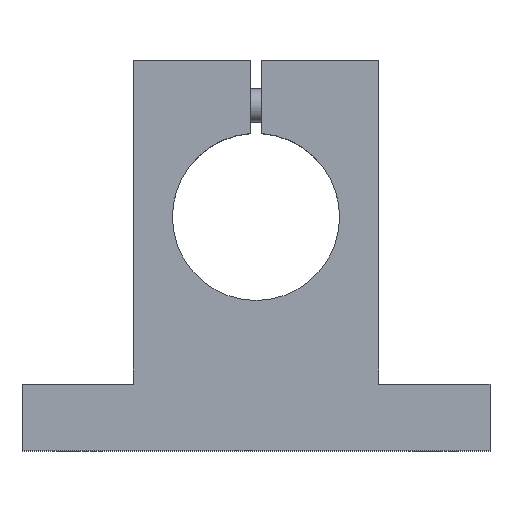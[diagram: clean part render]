
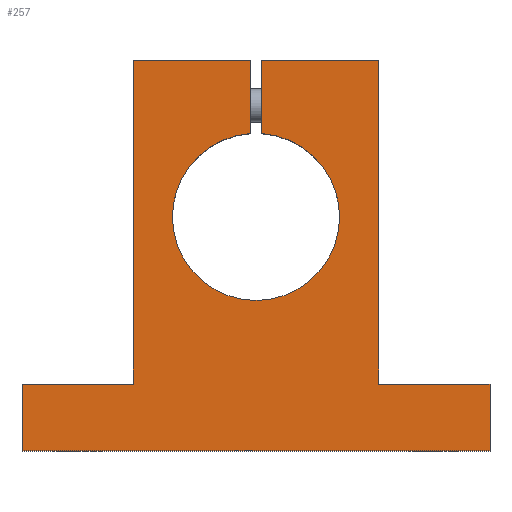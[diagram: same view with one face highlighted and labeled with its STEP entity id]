
A CAD part, top view. The second image highlights one B-rep face of the part: STEP entity #257.
In plain terms, the highlighted planar face has unit normal (0, 0, 1).
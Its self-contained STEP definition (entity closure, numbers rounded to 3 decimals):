
#16 = DIRECTION ( 'NONE',  ( 0., -1., 0. ) ) ;
#31 = LINE ( 'NONE', #623, #1117 ) ;
#41 = CARTESIAN_POINT ( 'NONE',  ( 42., -42., 0. ) ) ;
#50 = DIRECTION ( 'NONE',  ( 0., 1., 0. ) ) ;
#51 = VERTEX_POINT ( 'NONE', #202 ) ;
#73 = VECTOR ( 'NONE', #1114, 1000. ) ;
#83 = EDGE_CURVE ( 'NONE', #950, #186, #989, .T. ) ;
#92 = EDGE_CURVE ( 'NONE', #530, #1096, #31, .T. ) ;
#112 = ORIENTED_EDGE ( 'NONE', *, *, #695, .T. ) ;
#147 = CARTESIAN_POINT ( 'NONE',  ( -22., 28., 0. ) ) ;
#148 = LINE ( 'NONE', #1020, #1093 ) ;
#151 = CARTESIAN_POINT ( 'NONE',  ( 22., -30., 0. ) ) ;
#154 = ORIENTED_EDGE ( 'NONE', *, *, #783, .T. ) ;
#159 = DIRECTION ( 'NONE',  ( 0., 0., -1. ) ) ;
#162 = CARTESIAN_POINT ( 'NONE',  ( -42., -30., 0. ) ) ;
#173 = VERTEX_POINT ( 'NONE', #292 ) ;
#181 = DIRECTION ( 'NONE',  ( 0., 1., 0. ) ) ;
#183 = EDGE_CURVE ( 'NONE', #507, #918, #835, .T. ) ;
#184 = DIRECTION ( 'NONE',  ( 0., 1., 0. ) ) ;
#186 = VERTEX_POINT ( 'NONE', #911 ) ;
#202 = CARTESIAN_POINT ( 'NONE',  ( 1., 28., 0. ) ) ;
#207 = EDGE_CURVE ( 'NONE', #918, #530, #473, .T. ) ;
#231 = CARTESIAN_POINT ( 'NONE',  ( 0., 0., 0. ) ) ;
#242 = CARTESIAN_POINT ( 'NONE',  ( 22., 28., 0. ) ) ;
#247 = DIRECTION ( 'NONE',  ( 1., 0., 0. ) ) ;
#257 = ADVANCED_FACE ( 'NONE', ( #510 ), #499, .T. ) ;
#263 = VECTOR ( 'NONE', #1033, 1000. ) ;
#281 = ORIENTED_EDGE ( 'NONE', *, *, #690, .T. ) ;
#292 = CARTESIAN_POINT ( 'NONE',  ( 1., 14.967, 0. ) ) ;
#328 = VERTEX_POINT ( 'NONE', #1107 ) ;
#338 = VERTEX_POINT ( 'NONE', #162 ) ;
#377 = EDGE_CURVE ( 'NONE', #338, #507, #148, .T. ) ;
#379 = EDGE_LOOP ( 'NONE', ( #669, #723, #553, #1005, #776, #281, #569, #457, #808, #836, #501, #154, #112 ) ) ;
#405 = CARTESIAN_POINT ( 'NONE',  ( 22., 28., 0. ) ) ;
#432 = LINE ( 'NONE', #627, #722 ) ;
#457 = ORIENTED_EDGE ( 'NONE', *, *, #377, .T. ) ;
#473 = LINE ( 'NONE', #41, #941 ) ;
#494 = VERTEX_POINT ( 'NONE', #968 ) ;
#499 = PLANE ( 'NONE',  #772 ) ;
#501 = ORIENTED_EDGE ( 'NONE', *, *, #92, .T. ) ;
#507 = VERTEX_POINT ( 'NONE', #817 ) ;
#510 = FACE_OUTER_BOUND ( 'NONE', #379, .T. ) ;
#513 = CIRCLE ( 'NONE', #797, 15. ) ;
#530 = VERTEX_POINT ( 'NONE', #994 ) ;
#546 = VERTEX_POINT ( 'NONE', #921 ) ;
#553 = ORIENTED_EDGE ( 'NONE', *, *, #686, .T. ) ;
#554 = VECTOR ( 'NONE', #184, 1000. ) ;
#569 = ORIENTED_EDGE ( 'NONE', *, *, #891, .T. ) ;
#572 = AXIS2_PLACEMENT_3D ( 'NONE', #231, #159, #1024 ) ;
#579 = CARTESIAN_POINT ( 'NONE',  ( -42., -42., 0. ) ) ;
#584 = DIRECTION ( 'NONE',  ( -1., 0., 0. ) ) ;
#594 = CARTESIAN_POINT ( 'NONE',  ( 0., 0., 0. ) ) ;
#596 = CARTESIAN_POINT ( 'NONE',  ( 1., 0., 0. ) ) ;
#618 = CARTESIAN_POINT ( 'NONE',  ( -1., 14., 0. ) ) ;
#623 = CARTESIAN_POINT ( 'NONE',  ( 42., -30., 0. ) ) ;
#627 = CARTESIAN_POINT ( 'NONE',  ( -22., -30., 0. ) ) ;
#630 = DIRECTION ( 'NONE',  ( -1., 0., 0. ) ) ;
#639 = CARTESIAN_POINT ( 'NONE',  ( -1., 14.967, 0. ) ) ;
#660 = EDGE_CURVE ( 'NONE', #51, #173, #1013, .T. ) ;
#669 = ORIENTED_EDGE ( 'NONE', *, *, #660, .T. ) ;
#672 = LINE ( 'NONE', #242, #712 ) ;
#682 = CARTESIAN_POINT ( 'NONE',  ( 0., 0., 0. ) ) ;
#686 = EDGE_CURVE ( 'NONE', #494, #950, #1061, .T. ) ;
#690 = EDGE_CURVE ( 'NONE', #996, #546, #750, .T. ) ;
#695 = EDGE_CURVE ( 'NONE', #328, #51, #672, .T. ) ;
#712 = VECTOR ( 'NONE', #584, 1000. ) ;
#720 = EDGE_CURVE ( 'NONE', #186, #996, #1019, .T. ) ;
#722 = VECTOR ( 'NONE', #782, 1000. ) ;
#723 = ORIENTED_EDGE ( 'NONE', *, *, #725, .T. ) ;
#725 = EDGE_CURVE ( 'NONE', #173, #494, #513, .T. ) ;
#730 = CARTESIAN_POINT ( 'NONE',  ( -22., 28., 0. ) ) ;
#750 = LINE ( 'NONE', #147, #73 ) ;
#761 = DIRECTION ( 'NONE',  ( 0., 0., -1. ) ) ;
#772 = AXIS2_PLACEMENT_3D ( 'NONE', #594, #942, #948 ) ;
#776 = ORIENTED_EDGE ( 'NONE', *, *, #720, .T. ) ;
#782 = DIRECTION ( 'NONE',  ( -1., 0., 0. ) ) ;
#783 = EDGE_CURVE ( 'NONE', #1096, #328, #1056, .T. ) ;
#797 = AXIS2_PLACEMENT_3D ( 'NONE', #682, #761, #247 ) ;
#808 = ORIENTED_EDGE ( 'NONE', *, *, #183, .T. ) ;
#817 = CARTESIAN_POINT ( 'NONE',  ( -42., -42., 0. ) ) ;
#835 = LINE ( 'NONE', #579, #1030 ) ;
#836 = ORIENTED_EDGE ( 'NONE', *, *, #207, .T. ) ;
#891 = EDGE_CURVE ( 'NONE', #546, #338, #432, .T. ) ;
#911 = CARTESIAN_POINT ( 'NONE',  ( -1., 28., 0. ) ) ;
#918 = VERTEX_POINT ( 'NONE', #1071 ) ;
#921 = CARTESIAN_POINT ( 'NONE',  ( -22., -30., 0. ) ) ;
#924 = DIRECTION ( 'NONE',  ( 1., 0., 0. ) ) ;
#934 = DIRECTION ( 'NONE',  ( -1., 0., 0. ) ) ;
#941 = VECTOR ( 'NONE', #50, 1000. ) ;
#942 = DIRECTION ( 'NONE',  ( 0., 0., 1. ) ) ;
#948 = DIRECTION ( 'NONE',  ( 1., 0., 0. ) ) ;
#950 = VERTEX_POINT ( 'NONE', #639 ) ;
#967 = CARTESIAN_POINT ( 'NONE',  ( 22., -30., 0. ) ) ;
#968 = CARTESIAN_POINT ( 'NONE',  ( 0., -15., 0. ) ) ;
#989 = LINE ( 'NONE', #618, #1069 ) ;
#994 = CARTESIAN_POINT ( 'NONE',  ( 42., -30., 0. ) ) ;
#996 = VERTEX_POINT ( 'NONE', #730 ) ;
#1005 = ORIENTED_EDGE ( 'NONE', *, *, #83, .T. ) ;
#1007 = VECTOR ( 'NONE', #934, 1000. ) ;
#1013 = LINE ( 'NONE', #596, #263 ) ;
#1019 = LINE ( 'NONE', #405, #1007 ) ;
#1020 = CARTESIAN_POINT ( 'NONE',  ( -42., -30., 0. ) ) ;
#1024 = DIRECTION ( 'NONE',  ( 1., 0., 0. ) ) ;
#1030 = VECTOR ( 'NONE', #924, 1000. ) ;
#1033 = DIRECTION ( 'NONE',  ( 0., -1., 0. ) ) ;
#1056 = LINE ( 'NONE', #967, #554 ) ;
#1061 = CIRCLE ( 'NONE', #572, 15. ) ;
#1069 = VECTOR ( 'NONE', #181, 1000. ) ;
#1071 = CARTESIAN_POINT ( 'NONE',  ( 42., -42., 0. ) ) ;
#1093 = VECTOR ( 'NONE', #16, 1000. ) ;
#1096 = VERTEX_POINT ( 'NONE', #151 ) ;
#1107 = CARTESIAN_POINT ( 'NONE',  ( 22., 28., 0. ) ) ;
#1114 = DIRECTION ( 'NONE',  ( 0., -1., 0. ) ) ;
#1117 = VECTOR ( 'NONE', #630, 1000. ) ;
